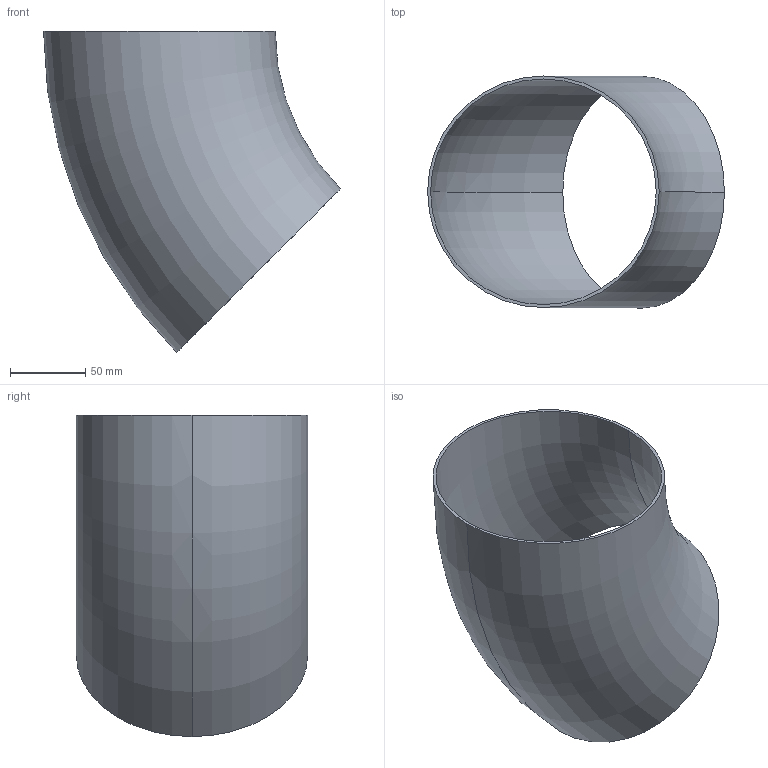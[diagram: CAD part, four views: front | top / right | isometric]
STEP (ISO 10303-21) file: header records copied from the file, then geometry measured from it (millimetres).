
FILE_DESCRIPTION (( 'STEP AP203' ), '1' );
FILE_NAME ('3D_R1650_154x2_17351700.STEP', '2024-08-03T09:13:21', ( '' ), ( '' ), 'SwSTEP 2.0', 'SolidWorks 2024', '' );
FILE_SCHEMA (( 'CONFIG_CONTROL_DESIGN' ));
Length unit declared in the file: millimetre
Products named in the file (1): 3D_R1650_154x2_17351700
Bounding box: 197.35 x 154 x 213.55 mm (x, y, z)
Volume: 168770.2 mm3; surface area: 170680.3 mm2
Topology: 1 solids, 1 shells, 6 faces, 12 edges, 8 vertices
Faces by surface type: torus 4, plane 2
Entity records: 249 total; most frequent: DIRECTION 38, CARTESIAN_POINT 27, ORIENTED_EDGE 24, AXIS2_PLACEMENT_3D 19, EDGE_CURVE 12, CIRCLE 12, VERTEX_POINT 8, PERSON_AND_ORGANIZATION 8
